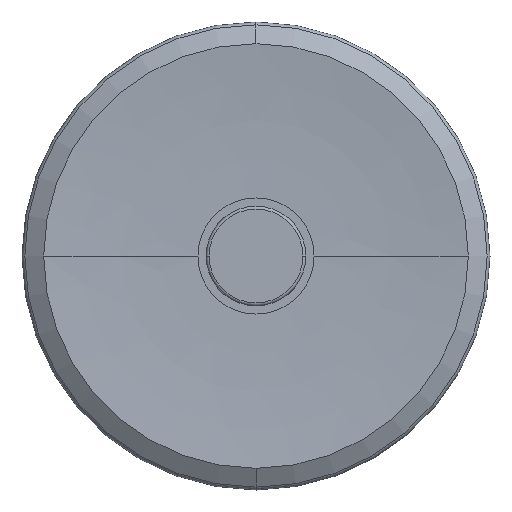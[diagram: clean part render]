
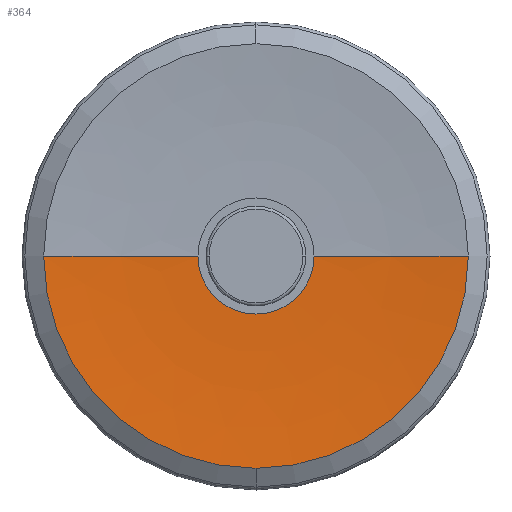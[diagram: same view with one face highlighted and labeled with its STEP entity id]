
A CAD part, left-side view. The second image highlights one B-rep face of the part: STEP entity #364.
In plain terms, the highlighted free-form (B-spline) face has degree [3, 3] with [5, 4] control points.
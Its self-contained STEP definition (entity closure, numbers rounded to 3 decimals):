
#5 = CARTESIAN_POINT ( 'NONE',  ( -0.865, 31.845, 0. ) ) ;
#37 = CIRCLE ( 'NONE', #1057, 9.9 ) ;
#42 = CARTESIAN_POINT ( 'NONE',  ( -1.25, -36.2, 0. ) ) ;
#46 = VERTEX_POINT ( 'NONE', #521 ) ;
#78 = CIRCLE ( 'NONE', #396, 36.2 ) ;
#83 = CARTESIAN_POINT ( 'NONE',  ( 0., 9.9, 0. ) ) ;
#84 = CARTESIAN_POINT ( 'NONE',  ( -1.25, 36.2, 0. ) ) ;
#164 = CARTESIAN_POINT ( 'NONE',  ( -0.03, 14.312, -28.624 ) ) ;
#170 = EDGE_CURVE ( 'NONE', #862, #797, #1101, .T. ) ;
#182 = DIRECTION ( 'NONE',  ( -1., 0., 0. ) ) ;
#213 = ORIENTED_EDGE ( 'NONE', *, *, #170, .F. ) ;
#260 = EDGE_CURVE ( 'NONE', #46, #1006, #1004, .T. ) ;
#271 = CARTESIAN_POINT ( 'NONE',  ( -0.03, -14.312, 0. ) ) ;
#273 = AXIS2_PLACEMENT_3D ( 'NONE', #836, #356, #825 ) ;
#275 = CARTESIAN_POINT ( 'NONE',  ( -0.03, 14.312, 0. ) ) ;
#293 = CARTESIAN_POINT ( 'NONE',  ( -0.091, 23.095, 0. ) ) ;
#304 = DIRECTION ( 'NONE',  ( -1., 0., 0. ) ) ;
#356 = DIRECTION ( 'NONE',  ( -1., 0., 0. ) ) ;
#363 = CARTESIAN_POINT ( 'NONE',  ( -0.865, 31.845, 0. ) ) ;
#364 = ADVANCED_FACE ( 'NONE', ( #629 ), #1005, .F. ) ;
#372 = DIRECTION ( 'NONE',  ( 0., 0., 1. ) ) ;
#375 = EDGE_CURVE ( 'NONE', #581, #46, #917, .T. ) ;
#396 = AXIS2_PLACEMENT_3D ( 'NONE', #751, #304, #848 ) ;
#445 = CARTESIAN_POINT ( 'NONE',  ( -0.091, 23.095, -46.191 ) ) ;
#449 = CARTESIAN_POINT ( 'NONE',  ( -1.25, -36.2, 0. ) ) ;
#467 = CARTESIAN_POINT ( 'NONE',  ( -0.091, -23.095, 0. ) ) ;
#521 = CARTESIAN_POINT ( 'NONE',  ( -1.25, -36.2, 0. ) ) ;
#523 = ORIENTED_EDGE ( 'NONE', *, *, #1198, .T. ) ;
#546 = CARTESIAN_POINT ( 'NONE',  ( -0.03, 14.312, 0. ) ) ;
#581 = VERTEX_POINT ( 'NONE', #957 ) ;
#599 = ORIENTED_EDGE ( 'NONE', *, *, #260, .T. ) ;
#629 = FACE_OUTER_BOUND ( 'NONE', #649, .T. ) ;
#645 = CARTESIAN_POINT ( 'NONE',  ( 0., -9.9, -19.8 ) ) ;
#649 = EDGE_LOOP ( 'NONE', ( #1172, #599, #990, #213, #523 ) ) ;
#686 = CARTESIAN_POINT ( 'NONE',  ( 0., -9.9, 0. ) ) ;
#716 = EDGE_CURVE ( 'NONE', #797, #1006, #37, .T. ) ;
#737 = CARTESIAN_POINT ( 'NONE',  ( -1.25, -36.2, -72.4 ) ) ;
#743 = CARTESIAN_POINT ( 'NONE',  ( -1.25, 36.2, 0. ) ) ;
#748 = CARTESIAN_POINT ( 'NONE',  ( 0., 9.9, 0. ) ) ;
#751 = CARTESIAN_POINT ( 'NONE',  ( -1.25, 0., 0. ) ) ;
#797 = VERTEX_POINT ( 'NONE', #908 ) ;
#815 = CARTESIAN_POINT ( 'NONE',  ( 0., 0., 0. ) ) ;
#825 = DIRECTION ( 'NONE',  ( 0., 0., 1. ) ) ;
#836 = CARTESIAN_POINT ( 'NONE',  ( -1.25, 0., 0. ) ) ;
#848 = DIRECTION ( 'NONE',  ( 0., 0., 1. ) ) ;
#862 = VERTEX_POINT ( 'NONE', #1054 ) ;
#908 = CARTESIAN_POINT ( 'NONE',  ( 0., 9.9, 0. ) ) ;
#909 = CARTESIAN_POINT ( 'NONE',  ( 0., 9.9, -19.8 ) ) ;
#917 = CIRCLE ( 'NONE', #273, 36.2 ) ;
#922 = CARTESIAN_POINT ( 'NONE',  ( -0.865, 31.845, -63.69 ) ) ;
#929 = CARTESIAN_POINT ( 'NONE',  ( -1.25, 36.2, -72.4 ) ) ;
#957 = CARTESIAN_POINT ( 'NONE',  ( -1.25, 0., -36.2 ) ) ;
#990 = ORIENTED_EDGE ( 'NONE', *, *, #716, .F. ) ;
#1002 = CARTESIAN_POINT ( 'NONE',  ( 0., -9.9, 0. ) ) ;
#1004 = B_SPLINE_CURVE_WITH_KNOTS ( 'NONE', 3,
 ( #42, #1065, #1155, #1070, #686 ),
 .UNSPECIFIED., .F., .F.,
 ( 4, 1, 4 ),
 ( 0., 0.498, 1. ),
 .UNSPECIFIED. ) ;
#1005 =( BOUNDED_SURFACE ( )  B_SPLINE_SURFACE ( 3, 3, ( 
 ( #743, #929, #737, #449 ),
 ( #363, #922, #1107, #1008 ),
 ( #1197, #445, #1211, #467 ),
 ( #546, #164, #1093, #271 ),
 ( #83, #909, #645, #1002 ) ),
 .UNSPECIFIED., .F., .F., .F. ) 
 B_SPLINE_SURFACE_WITH_KNOTS ( ( 4, 1, 4 ),
 ( 4, 4 ),
 ( 0., 0.498, 1. ),
 ( 0., 1. ),
 .UNSPECIFIED. ) 
 GEOMETRIC_REPRESENTATION_ITEM ( )  RATIONAL_B_SPLINE_SURFACE ( (
 ( 1., 0.333, 0.333, 1.),
 ( 1., 0.333, 0.333, 1.),
 ( 1., 0.333, 0.333, 1.),
 ( 1., 0.333, 0.333, 1.),
 ( 1., 0.333, 0.333, 1.) ) ) 
 REPRESENTATION_ITEM ( '' )  SURFACE ( )  );
#1006 = VERTEX_POINT ( 'NONE', #1131 ) ;
#1008 = CARTESIAN_POINT ( 'NONE',  ( -0.865, -31.845, 0. ) ) ;
#1054 = CARTESIAN_POINT ( 'NONE',  ( -1.25, 36.2, 0. ) ) ;
#1057 = AXIS2_PLACEMENT_3D ( 'NONE', #815, #182, #372 ) ;
#1065 = CARTESIAN_POINT ( 'NONE',  ( -0.865, -31.845, 0. ) ) ;
#1070 = CARTESIAN_POINT ( 'NONE',  ( -0.03, -14.312, 0. ) ) ;
#1093 = CARTESIAN_POINT ( 'NONE',  ( -0.03, -14.312, -28.624 ) ) ;
#1101 = B_SPLINE_CURVE_WITH_KNOTS ( 'NONE', 3,
 ( #84, #5, #293, #275, #748 ),
 .UNSPECIFIED., .F., .F.,
 ( 4, 1, 4 ),
 ( 0., 0.498, 1. ),
 .UNSPECIFIED. ) ;
#1107 = CARTESIAN_POINT ( 'NONE',  ( -0.865, -31.845, -63.69 ) ) ;
#1131 = CARTESIAN_POINT ( 'NONE',  ( 0., -9.9, 0. ) ) ;
#1155 = CARTESIAN_POINT ( 'NONE',  ( -0.091, -23.095, 0. ) ) ;
#1172 = ORIENTED_EDGE ( 'NONE', *, *, #375, .T. ) ;
#1197 = CARTESIAN_POINT ( 'NONE',  ( -0.091, 23.095, 0. ) ) ;
#1198 = EDGE_CURVE ( 'NONE', #862, #581, #78, .T. ) ;
#1211 = CARTESIAN_POINT ( 'NONE',  ( -0.091, -23.095, -46.191 ) ) ;
